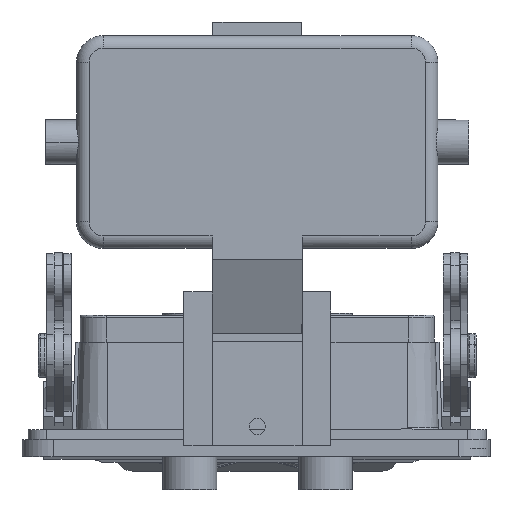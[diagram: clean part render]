
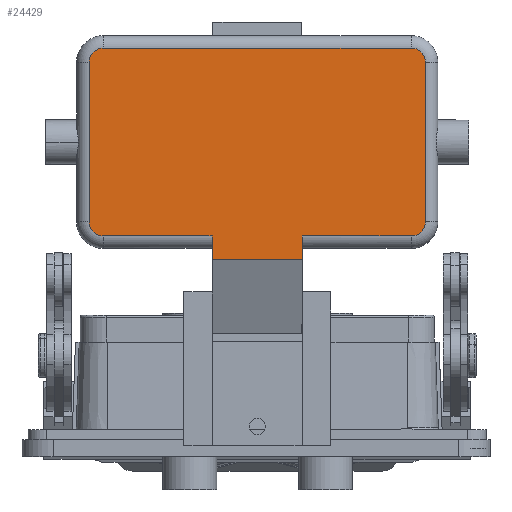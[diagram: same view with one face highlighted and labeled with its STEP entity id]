
A CAD part, front view. The second image highlights one B-rep face of the part: STEP entity #24429.
In plain terms, the highlighted planar face has unit normal (0, -1, 0).
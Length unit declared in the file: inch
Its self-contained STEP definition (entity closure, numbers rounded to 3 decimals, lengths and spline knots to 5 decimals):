
#1697 = LINE ( 'NONE', #1743, #1742 ) ;
#1698 = CARTESIAN_POINT ( 'NONE',  ( 1.35162, -1.8715, 3.1 ) ) ;
#1741 = DIRECTION ( 'NONE',  ( 0., 0., 1. ) ) ;
#1742 = VECTOR ( 'NONE', #1741, 39.37008 ) ;
#1743 = CARTESIAN_POINT ( 'NONE',  ( 1.35162, -1.8715, 3.1 ) ) ;
#2095 = CARTESIAN_POINT ( 'NONE',  ( -1.237, -1.8715, 1.70538 ) ) ;
#3216 = CARTESIAN_POINT ( 'NONE',  ( 0.36338, -1.8715, 1.70538 ) ) ;
#3230 = CARTESIAN_POINT ( 'NONE',  ( 1.35162, -1.8715, 1.82 ) ) ;
#3261 = DIRECTION ( 'NONE',  ( 1., 0., 0. ) ) ;
#3262 = VECTOR ( 'NONE', #3261, 39.37008 ) ;
#3263 = CARTESIAN_POINT ( 'NONE',  ( 1.237, -1.8715, 1.70538 ) ) ;
#3264 = LINE ( 'NONE', #3263, #3262 ) ;
#3266 = CARTESIAN_POINT ( 'NONE',  ( 1.237, -1.8715, 1.70538 ) ) ;
#9538 = DIRECTION ( 'NONE',  ( 1., 0., 0. ) ) ;
#9539 = VECTOR ( 'NONE', #9538, 39.37008 ) ;
#9540 = CARTESIAN_POINT ( 'NONE',  ( -0.36338, -1.8715, 1.70538 ) ) ;
#9592 = LINE ( 'NONE', #9540, #9539 ) ;
#9593 = CARTESIAN_POINT ( 'NONE',  ( -0.36338, -1.8715, 1.70538 ) ) ;
#16788 = CARTESIAN_POINT ( 'NONE',  ( 1.237, -1.8715, 3.21462 ) ) ;
#16789 = DIRECTION ( 'NONE',  ( -1., 0., 0. ) ) ;
#16790 = VECTOR ( 'NONE', #16789, 39.37008 ) ;
#16791 = CARTESIAN_POINT ( 'NONE',  ( 0., -1.8715, 3.21462 ) ) ;
#16792 = LINE ( 'NONE', #16791, #16790 ) ;
#16819 = DIRECTION ( 'NONE',  ( 0., 0., -1. ) ) ;
#16820 = VECTOR ( 'NONE', #16819, 39.37008 ) ;
#16821 = CARTESIAN_POINT ( 'NONE',  ( -1.35162, -1.8715, -0.82251 ) ) ;
#16826 = LINE ( 'NONE', #16821, #16820 ) ;
#16952 = CARTESIAN_POINT ( 'NONE',  ( -1.237, -1.8715, 3.21462 ) ) ;
#16953 = DIRECTION ( 'NONE',  ( -1., 0., 0. ) ) ;
#16954 = DIRECTION ( 'NONE',  ( 0., -1., 0. ) ) ;
#16955 = CARTESIAN_POINT ( 'NONE',  ( -1.237, -1.8715, 3.1 ) ) ;
#16956 = AXIS2_PLACEMENT_3D ( 'NONE', #16955, #16954, #16953 ) ;
#16957 = CIRCLE ( 'NONE', #16956, 0.11462 ) ;
#17608 = CARTESIAN_POINT ( 'NONE',  ( -1.35162, -1.8715, 1.82 ) ) ;
#17609 = DIRECTION ( 'NONE',  ( -1., 0., 0. ) ) ;
#17610 = DIRECTION ( 'NONE',  ( 0., -1., 0. ) ) ;
#17611 = CARTESIAN_POINT ( 'NONE',  ( -1.237, -1.8715, 1.82 ) ) ;
#17612 = AXIS2_PLACEMENT_3D ( 'NONE', #17611, #17610, #17609 ) ;
#17613 = CIRCLE ( 'NONE', #17612, 0.11462 ) ;
#17663 = DIRECTION ( 'NONE',  ( -1., 0., 0. ) ) ;
#17664 = DIRECTION ( 'NONE',  ( 0., -1., 0. ) ) ;
#17665 = CARTESIAN_POINT ( 'NONE',  ( 1.237, -1.8715, 3.1 ) ) ;
#17666 = AXIS2_PLACEMENT_3D ( 'NONE', #17665, #17664, #17663 ) ;
#17667 = CIRCLE ( 'NONE', #17666, 0.11462 ) ;
#18009 = CARTESIAN_POINT ( 'NONE',  ( 0., -1.8715, -0.82251 ) ) ;
#18010 = AXIS2_PLACEMENT_3D ( 'NONE', #18009, #18210, #18530 ) ;
#18011 = PLANE ( 'NONE',  #18010 ) ;
#18152 = CARTESIAN_POINT ( 'NONE',  ( -1.35162, -1.8715, 3.1 ) ) ;
#18210 = DIRECTION ( 'NONE',  ( 0., 1., 0. ) ) ;
#18240 = FACE_OUTER_BOUND ( 'NONE', #24430, .T. ) ;
#18302 = DIRECTION ( 'NONE',  ( 0., 0., -1. ) ) ;
#18303 = VECTOR ( 'NONE', #18302, 39.37008 ) ;
#18304 = CARTESIAN_POINT ( 'NONE',  ( 0.36338, -1.8715, -0.82251 ) ) ;
#18305 = LINE ( 'NONE', #18304, #18303 ) ;
#18307 = CARTESIAN_POINT ( 'NONE',  ( 0.36338, -1.8715, 1.51569 ) ) ;
#18308 = DIRECTION ( 'NONE',  ( 1., 0., 0. ) ) ;
#18309 = VECTOR ( 'NONE', #18308, 39.37008 ) ;
#18310 = CARTESIAN_POINT ( 'NONE',  ( 0., -1.8715, 1.51569 ) ) ;
#18335 = LINE ( 'NONE', #18310, #18309 ) ;
#18433 = CARTESIAN_POINT ( 'NONE',  ( -0.36338, -1.8715, -0.82251 ) ) ;
#18529 = LINE ( 'NONE', #18433, #18595 ) ;
#18530 = DIRECTION ( 'NONE',  ( -1., 0., 0. ) ) ;
#18593 = CARTESIAN_POINT ( 'NONE',  ( -0.36338, -1.8715, 1.51569 ) ) ;
#18594 = DIRECTION ( 'NONE',  ( 0., 0., 1. ) ) ;
#18595 = VECTOR ( 'NONE', #18594, 39.37008 ) ;
#19092 = DIRECTION ( 'NONE',  ( -1., 0., 0. ) ) ;
#19093 = DIRECTION ( 'NONE',  ( 0., -1., 0. ) ) ;
#19094 = CARTESIAN_POINT ( 'NONE',  ( 1.237, -1.8715, 1.82 ) ) ;
#19095 = AXIS2_PLACEMENT_3D ( 'NONE', #19094, #19093, #19092 ) ;
#19096 = CIRCLE ( 'NONE', #19095, 0.11462 ) ;
#23575 = EDGE_CURVE ( 'NONE', #23577, #23703, #16792, .T. ) ;
#23577 = VERTEX_POINT ( 'NONE', #16788 ) ;
#23633 = EDGE_CURVE ( 'NONE', #24250, #23937, #16826, .T. ) ;
#23701 = EDGE_CURVE ( 'NONE', #23703, #24250, #16957, .T. ) ;
#23703 = VERTEX_POINT ( 'NONE', #16952 ) ;
#23936 = EDGE_CURVE ( 'NONE', #23937, #29913, #17613, .T. ) ;
#23937 = VERTEX_POINT ( 'NONE', #17608 ) ;
#24099 = EDGE_CURVE ( 'NONE', #29751, #23577, #17667, .T. ) ;
#24250 = VERTEX_POINT ( 'NONE', #18152 ) ;
#24396 = ORIENTED_EDGE ( 'NONE', *, *, #24397, .T. ) ;
#24397 = EDGE_CURVE ( 'NONE', #24433, #24398, #18335, .T. ) ;
#24398 = VERTEX_POINT ( 'NONE', #18307 ) ;
#24399 = ORIENTED_EDGE ( 'NONE', *, *, #24400, .F. ) ;
#24400 = EDGE_CURVE ( 'NONE', #29404, #24398, #18305, .T. ) ;
#24401 = ORIENTED_EDGE ( 'NONE', *, *, #29417, .T. ) ;
#24402 = ORIENTED_EDGE ( 'NONE', *, *, #24646, .T. ) ;
#24429 = ADVANCED_FACE ( 'NONE', ( #18240 ), #18011, .F. ) ;
#24430 = EDGE_LOOP ( 'NONE', ( #24431, #24396, #24399, #24401, #24402, #24434, #24435, #24510, #24511, #24512, #24513, #24514 ) ) ;
#24431 = ORIENTED_EDGE ( 'NONE', *, *, #24432, .F. ) ;
#24432 = EDGE_CURVE ( 'NONE', #24433, #29359, #18529, .T. ) ;
#24433 = VERTEX_POINT ( 'NONE', #18593 ) ;
#24434 = ORIENTED_EDGE ( 'NONE', *, *, #29753, .T. ) ;
#24435 = ORIENTED_EDGE ( 'NONE', *, *, #24099, .T. ) ;
#24510 = ORIENTED_EDGE ( 'NONE', *, *, #23575, .T. ) ;
#24511 = ORIENTED_EDGE ( 'NONE', *, *, #23701, .T. ) ;
#24512 = ORIENTED_EDGE ( 'NONE', *, *, #23633, .T. ) ;
#24513 = ORIENTED_EDGE ( 'NONE', *, *, #23936, .T. ) ;
#24514 = ORIENTED_EDGE ( 'NONE', *, *, #29361, .T. ) ;
#24646 = EDGE_CURVE ( 'NONE', #29415, #29423, #19096, .T. ) ;
#29359 = VERTEX_POINT ( 'NONE', #9593 ) ;
#29361 = EDGE_CURVE ( 'NONE', #29913, #29359, #9592, .T. ) ;
#29404 = VERTEX_POINT ( 'NONE', #3216 ) ;
#29415 = VERTEX_POINT ( 'NONE', #3266 ) ;
#29417 = EDGE_CURVE ( 'NONE', #29404, #29415, #3264, .T. ) ;
#29423 = VERTEX_POINT ( 'NONE', #3230 ) ;
#29751 = VERTEX_POINT ( 'NONE', #1698 ) ;
#29753 = EDGE_CURVE ( 'NONE', #29423, #29751, #1697, .T. ) ;
#29913 = VERTEX_POINT ( 'NONE', #2095 ) ;
